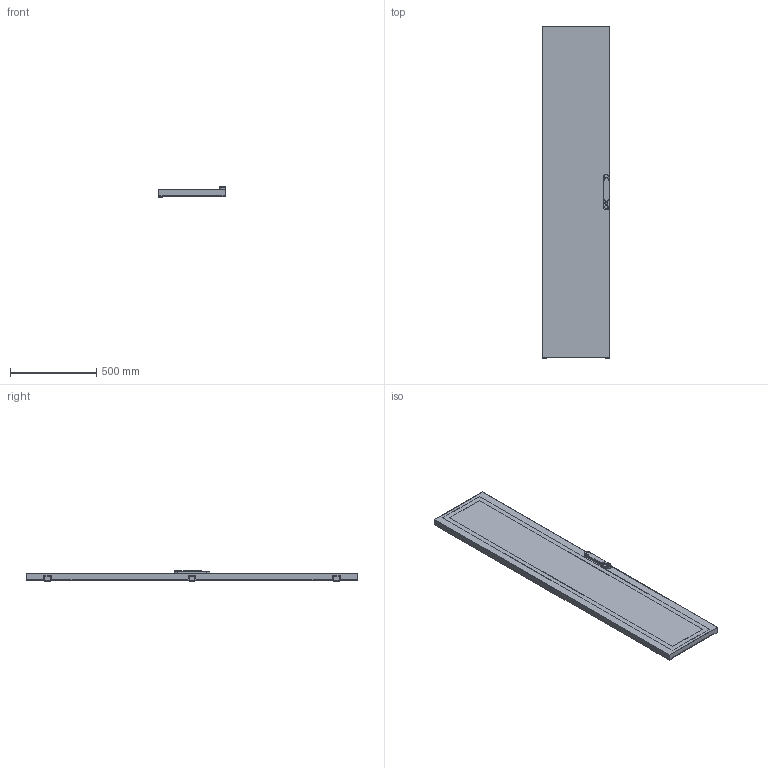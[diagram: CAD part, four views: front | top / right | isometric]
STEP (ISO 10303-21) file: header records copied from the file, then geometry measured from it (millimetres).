
FILE_DESCRIPTION((''),'2;1');
FILE_NAME('1618514385214_ASM','2021-04-16T00:50:01',('SESA176331'),('Schneider-Electric'),'CREO PARAMETRIC BY PTC INC, 2019164','CREO PARAMETRIC BY PTC INC, 2019164','');
FILE_SCHEMA(('AP242_MANAGED_MODEL_BASED_3D_ENGINEERING_MIM_LF { 1 0 10303 442 1 1 4 }'));
Length unit declared in the file: millimetre
Products named in the file (8): EMPTYNODE_1618514385374_ASM; SB106332_08544-3D_AAV8173601; SB106332_08544-3D_AAV55686; SB106332_08544-3D_469703700; SB106332_ASM; SETG-HANDLE-SYSTEMP-3D_LVS08122; SETG-HANDLE-SYSTEMP-3D_ASM; 1618514385214_ASM
Assembly tree (9 placements, depth 3):
  1618514385214_ASM
    EMPTYNODE_1618514385374_ASM
    SB106332_ASM
      SB106332_08544-3D_AAV8173601
      SB106332_08544-3D_AAV55686  x3
      SB106332_08544-3D_469703700
    SETG-HANDLE-SYSTEMP-3D_ASM
      SETG-HANDLE-SYSTEMP-3D_LVS08122
Bounding box: 394 x 1925 x 59.97 mm (x, y, z)
Volume: 2381533.8 mm3; surface area: 2993791.4 mm2
Topology: 6 solids, 6 shells, 417 faces, 1098 edges, 736 vertices
Faces by surface type: plane 335, cylinder 66, extrusion 16
Entity records: 15337 total; most frequent: CARTESIAN_POINT 2498, ORIENTED_EDGE 1682, DIRECTION 1618, PRESENTATION_STYLE_ASSIGNMENT 943, STYLED_ITEM 864, CURVE_STYLE 859, EDGE_CURVE 841, VECTOR 718
